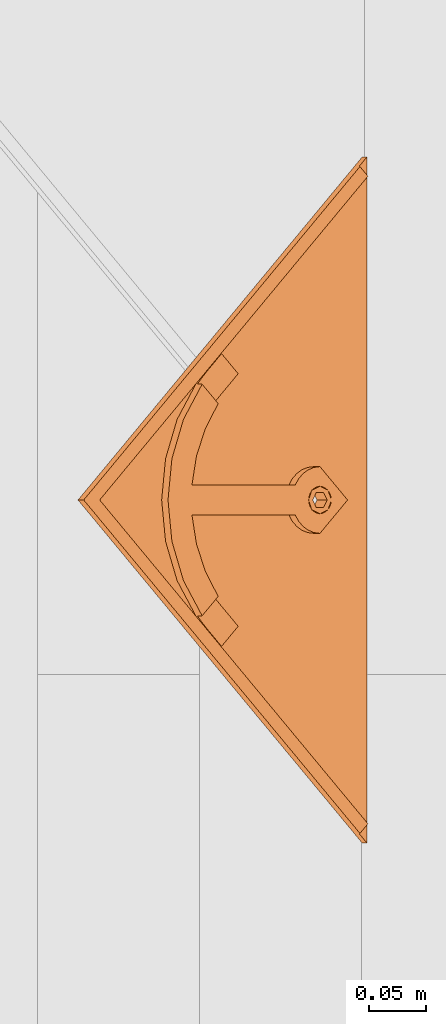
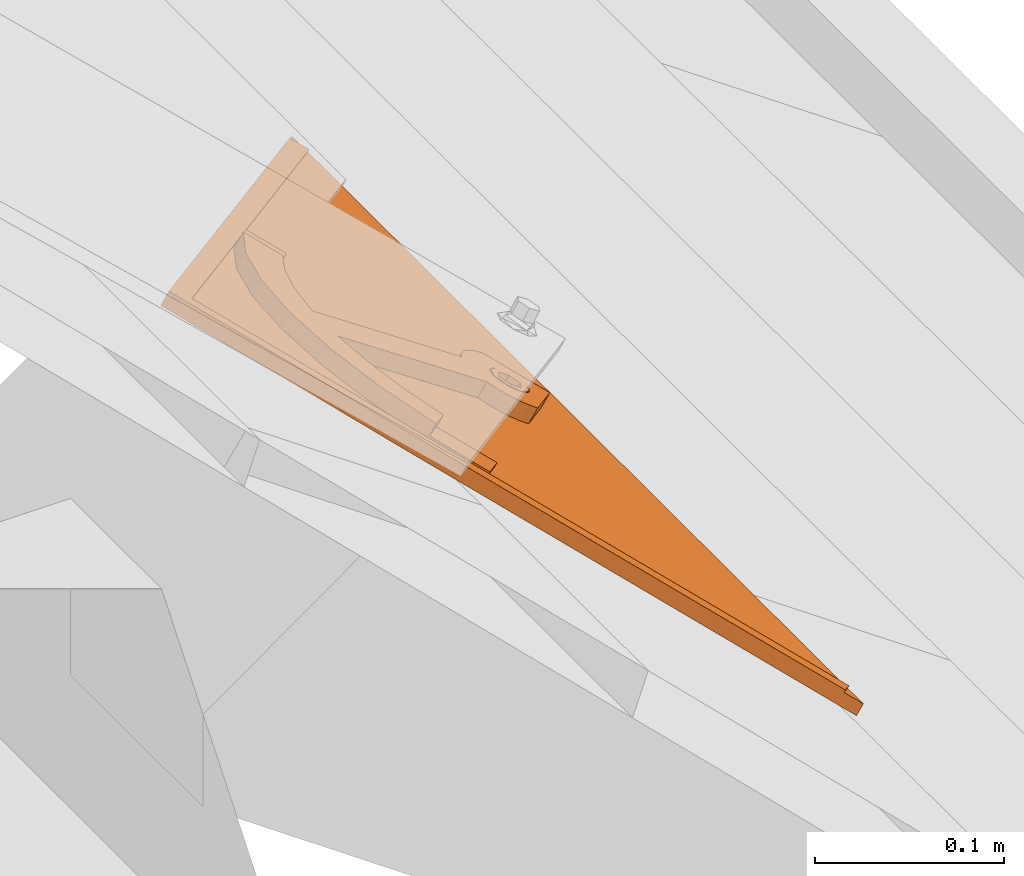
# One storey, part 136 of 151: 1 proxy.
"""IFC2X3 building model written with IfcOpenShell, lengths in millimetres."""

import ifcopenshell
import ifcopenshell.guid

model = None  # the IFC model being written
_history = None  # IfcOwnerHistory: only IFC2X3 demands one
_inside = {}  # id of a spatial element -> (the spatial element, [elements in it])
_under = {}  # id of a project, library or spatial element -> (it, [spatial elements below it])
_declared = {}  # id of a project -> (the project, [libraries it declares])
_typed = {}  # id of a type object -> (the type object, [elements of that type])
_made_of = {}  # id of a material, layer set ... -> (it, [elements and type objects made of it])


def new_model(schema):
    """Start an empty IFC model of exactly this schema.

    Asked for "IFC4X3", IfcOpenShell would pick the latest addendum, in which some entities
    have other attributes; the version numbers below select the first issue.
    IFC2X3 requires an IfcOwnerHistory on every rooted entity: one is made here for all.
    """
    global model, _history
    if schema == "IFC4X3":
        model = ifcopenshell.file(schema_version=(4, 3, 0, 0))
    else:
        model = ifcopenshell.file(schema=schema)
    _inside.clear()
    _under.clear()
    _declared.clear()
    _typed.clear()
    _made_of.clear()
    _history = None
    if model.schema == "IFC2X3":
        org = make("IfcOrganization", Name="unknown")
        user = make(
            "IfcPersonAndOrganization",
            ThePerson=make("IfcPerson", FamilyName="unknown"),
            TheOrganization=org,
        )
        app = make(
            "IfcApplication",
            ApplicationDeveloper=org,
            Version="unknown",
            ApplicationFullName="unknown",
            ApplicationIdentifier="unknown",
        )
        _history = make(
            "IfcOwnerHistory",
            OwningUser=user,
            OwningApplication=app,
            ChangeAction="ADDED",
            CreationDate=0,
        )
    return model


def make(cls, **values):
    """One entity of the class cls with the attributes given. An attribute that is None is left unset."""
    return model.create_entity(
        cls, **{name: value for name, value in values.items() if value is not None}
    )


def entity(cls, *values):
    """Any entity or typed value of the class cls, its attributes in the order of the schema. None: left unset."""
    e = model.create_entity(cls)
    for i, value in enumerate(values):
        if value is not None:
            e[i] = value
    return e


def rooted(cls, **values):
    """An entity with a GlobalId (a new one), such as an element, a storey or a relation."""
    return make(cls, GlobalId=ifcopenshell.guid.new(), OwnerHistory=_history, **values)


def si_unit(unit_type, name, prefix=None):
    """IfcSIUnit, for example si_unit("LENGTHUNIT", "METRE", prefix="MILLI")."""
    return make("IfcSIUnit", UnitType=unit_type, Prefix=prefix, Name=name)


def converted_unit(unit_type, name, factor, base, dimensions=None, offset=None):
    """IfcConversionBasedUnit, such as the inch: factor (a typed value) times the base unit."""
    return make(
        "IfcConversionBasedUnit"
        if offset is None
        else "IfcConversionBasedUnitWithOffset",
        ConversionOffset=offset,
        Dimensions=None
        if dimensions is None
        else entity("IfcDimensionalExponents", *dimensions),
        UnitType=unit_type,
        Name=name,
        ConversionFactor=make(
            "IfcMeasureWithUnit", ValueComponent=factor, UnitComponent=base
        ),
    )


def derived_unit(unit_type, elements):
    """IfcDerivedUnit: a product of units, each with its exponent."""
    return make(
        "IfcDerivedUnit",
        Elements=[
            make("IfcDerivedUnitElement", Unit=unit, Exponent=power)
            for unit, power in elements
        ],
        UnitType=unit_type,
    )


def assignment(units):
    """IfcUnitAssignment: the units of a project."""
    return None if units is None else make("IfcUnitAssignment", Units=units)


def point(xyz):
    """IfcCartesianPoint."""
    return None if xyz is None else make("IfcCartesianPoint", Coordinates=xyz)


def direction(xyz):
    """IfcDirection."""
    return None if xyz is None else make("IfcDirection", DirectionRatios=xyz)


def frame(location, z_axis=None, x_axis=None):
    """IfcAxis2Placement3D, a coordinate frame: its origin and axes. An axis left out is left unset."""
    return make(
        "IfcAxis2Placement3D",
        Location=point(location),
        Axis=direction(z_axis),
        RefDirection=direction(x_axis),
    )


def origin():
    """The frame at (0, 0, 0) with its axes left unset."""
    return frame((0.0, 0.0, 0.0))


def place(relative_to, where):
    """IfcLocalPlacement: puts the frame where relative to a parent placement (None: the world)."""
    return make(
        "IfcLocalPlacement", PlacementRelTo=relative_to, RelativePlacement=where
    )


def context(
    kind, dimensions, precision=None, world=None, true_north=None, identifier=None
):
    """IfcGeometricRepresentationContext, for example the 3D "Model" context."""
    return make(
        "IfcGeometricRepresentationContext",
        ContextIdentifier=identifier,
        ContextType=kind,
        CoordinateSpaceDimension=dimensions,
        Precision=precision,
        WorldCoordinateSystem=world,
        TrueNorth=true_north,
    )


def subcontext(parent, identifier, kind, view, scale=None):
    """IfcGeometricRepresentationSubContext, for example "Body" below "Model"."""
    return make(
        "IfcGeometricRepresentationSubContext",
        ContextIdentifier=identifier,
        ContextType=kind,
        ParentContext=parent,
        TargetScale=scale,
        TargetView=view,
    )


def project(units=None, contexts=None):
    """IfcProject with its units and contexts."""
    return rooted(
        "IfcProject",
        Name="project",
        RepresentationContexts=contexts,
        UnitsInContext=assignment(units),
    )


def spatial(cls, under=None, at=None, **own):
    """A site, building, storey or space (cls), placed at a placement, below another one or the project."""
    s = rooted(cls, ObjectPlacement=at, **own)
    if under is not None:
        _under.setdefault(under.id(), (under, []))[1].append(s)
    return s


def faces_of(points, faces, orient=None, outer=None):
    """IfcFace entities. A face is a list of loops; a loop is a list of indices into points, from 0.

    orient and outer hold one flag for each loop. By default every Orientation is true, the
    first loop of a face is its IfcFaceOuterBound and the others are IfcFaceBound.
    """
    made = []
    for i, loops in enumerate(faces):
        bounds = []
        for j, loop in enumerate(loops):
            is_outer = j == 0 if outer is None else outer[i][j]
            bounds.append(
                make(
                    "IfcFaceOuterBound" if is_outer else "IfcFaceBound",
                    Bound=make("IfcPolyLoop", Polygon=[points[k] for k in loop]),
                    Orientation=True if orient is None else orient[i][j],
                )
            )
        made.append(make("IfcFace", Bounds=bounds))
    return made


def faceted_brep(points, faces, orient=None, outer=None, voids=None):
    """IfcFacetedBrep: a solid bounded by flat faces; with voids (closed shells), ...WithVoids."""
    shared = [point(p) for p in points]
    hull = make("IfcClosedShell", CfsFaces=faces_of(shared, faces, orient, outer))
    if voids is None:
        return make("IfcFacetedBrep", Outer=hull)
    return make(
        "IfcFacetedBrepWithVoids",
        Outer=hull,
        Voids=[
            make(cls, CfsFaces=faces_of(shared, fs, o, b)) for cls, fs, o, b in voids
        ],
    )


def shape(context_of_items, identifier, shape_type, items):
    """IfcShapeRepresentation: the items that make up one representation, for example the "Body"."""
    return make(
        "IfcShapeRepresentation",
        ContextOfItems=context_of_items,
        RepresentationIdentifier=identifier,
        RepresentationType=shape_type,
        Items=items,
    )


def source(mapping_origin, context_of_items, identifier, shape_type, items):
    """IfcRepresentationMap: a shape defined once, which mapped items show again and again."""
    return make(
        "IfcRepresentationMap",
        MappingOrigin=mapping_origin,
        MappedRepresentation=shape(context_of_items, identifier, shape_type, items),
    )


def transform(
    local_origin,
    x_axis=None,
    y_axis=None,
    z_axis=None,
    scale=None,
    scale2=None,
    scale3=None,
    uniform=True,
):
    """IfcCartesianTransformationOperator3D, or its non-uniform kind. x_axis, y_axis, z_axis: its Axis1, 2, 3."""
    if uniform:
        return make(
            "IfcCartesianTransformationOperator3D",
            Axis1=direction(x_axis),
            Axis2=direction(y_axis),
            LocalOrigin=point(local_origin),
            Scale=scale,
            Axis3=direction(z_axis),
        )
    return make(
        "IfcCartesianTransformationOperator3DnonUniform",
        Axis1=direction(x_axis),
        Axis2=direction(y_axis),
        LocalOrigin=point(local_origin),
        Scale=scale,
        Axis3=direction(z_axis),
        Scale2=scale2,
        Scale3=scale3,
    )


def mapped(mapping_source, mapping_target):
    """IfcMappedItem: shows the shape of a source again, moved by a transform."""
    return make(
        "IfcMappedItem", MappingSource=mapping_source, MappingTarget=mapping_target
    )


def material(Name=None, Category=None):
    """IfcMaterial."""
    return make("IfcMaterial", Name=Name, Category=Category)


def material_list(materials):
    """IfcMaterialList."""
    return make("IfcMaterialList", Materials=materials)


def made_of(thing, what):
    """Note that an element or type object is made of a material, layer set ...; save() writes the relation."""
    if what is not None:
        _made_of.setdefault(what.id(), (what, []))[1].append(thing)
    return thing


def type_object(cls, material=None, **own):
    """A type object (cls), such as IfcWallType, which elements share."""
    return made_of(rooted(cls, **own), material)


def type_shapes(of_type, sources):
    """Give a type object the sources (RepresentationMaps) that its elements show as mapped items."""
    of_type.RepresentationMaps = sources


def element(
    cls,
    number,
    at=None,
    inside=None,
    cuts=None,
    type_object=None,
    material=None,
    context=None,
    identifier="Body",
    shape_type=None,
    held_by="IfcProductDefinitionShape",
    body=None,
    shapes=None,
    **own,
):
    """One element of the class cls, such as IfcWall. Its Tag is "e" and its number.

    at: its placement. inside: the storey or other place that contains it. cuts: it is an
    opening in that element (IfcRelVoidsElement). A single representation is given by context,
    identifier, shape_type and body (its items); several are given by shapes. held_by: the class
    of the entity that holds the representations. save() writes the other relations.
    """
    e = rooted(cls, Tag="e%d" % number, ObjectPlacement=at, **own)
    if body is not None:
        shapes = [shape(context, identifier, shape_type, body)]
    if shapes is not None:
        e.Representation = make(held_by, Representations=shapes)
    if inside is not None:
        _inside.setdefault(inside.id(), (inside, []))[1].append(e)
    if cuts is not None:
        rooted(
            "IfcRelVoidsElement", RelatingBuildingElement=cuts, RelatedOpeningElement=e
        )
    if type_object is not None:
        _typed.setdefault(type_object.id(), (type_object, []))[1].append(e)
    return made_of(e, material)


def aggregate(whole, parts):
    """IfcRelAggregates: a whole, such as a stair, and the parts it consists of."""
    return rooted("IfcRelAggregates", RelatingObject=whole, RelatedObjects=parts)


def save(model, path):
    """Write the relations noted so far, then the file.

    IfcRelAggregates (storeys below a building ...), IfcRelContainedInSpatialStructure (elements
    in a storey), IfcRelDefinesByType, IfcRelAssociatesMaterial and IfcRelDeclares: one each for
    every whole, place, type object, material and project.
    """
    for whole, parts in _under.values():
        aggregate(whole, parts)
    for where, things in _inside.values():
        rooted(
            "IfcRelContainedInSpatialStructure",
            RelatedElements=things,
            RelatingStructure=where,
        )
    for kind, things in _typed.values():
        rooted("IfcRelDefinesByType", RelatedObjects=things, RelatingType=kind)
    for what, things in _made_of.values():
        rooted("IfcRelAssociatesMaterial", RelatedObjects=things, RelatingMaterial=what)
    for by, libraries in _declared.values():
        rooted("IfcRelDeclares", RelatingContext=by, RelatedDefinitions=libraries)
    model.write(path)


model = new_model("IFC2X3")

# Units and contexts
model_context = context("Model", 3, precision=0.01, world=origin(), true_north=direction((6.12303176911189e-17, 1.0)))
body_context = subcontext(model_context, "Body", "Model", "MODEL_VIEW")
ifc_project = project(units=[si_unit("LENGTHUNIT", "METRE", prefix="MILLI"), si_unit("AREAUNIT", "SQUARE_METRE"), si_unit("VOLUMEUNIT", "CUBIC_METRE"), converted_unit("PLANEANGLEUNIT", "DEGREE", entity("IfcRatioMeasure", 0.0174532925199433), si_unit("PLANEANGLEUNIT", "RADIAN"), dimensions=[0, 0, 0, 0, 0, 0, 0]), si_unit("MASSUNIT", "GRAM", prefix="KILO"), derived_unit("MASSDENSITYUNIT", [(si_unit("MASSUNIT", "GRAM", prefix="KILO"), 1), (si_unit("LENGTHUNIT", "METRE"), -3)]), si_unit("TIMEUNIT", "SECOND"), si_unit("FREQUENCYUNIT", "HERTZ"), si_unit("THERMODYNAMICTEMPERATUREUNIT", "DEGREE_CELSIUS"), derived_unit("THERMALTRANSMITTANCEUNIT", [(si_unit("MASSUNIT", "GRAM", prefix="KILO"), 1), (si_unit("THERMODYNAMICTEMPERATUREUNIT", "KELVIN"), -1), (si_unit("TIMEUNIT", "SECOND"), -3)]), derived_unit("VOLUMETRICFLOWRATEUNIT", [(si_unit("LENGTHUNIT", "METRE"), 3), (si_unit("TIMEUNIT", "SECOND"), -1)]), si_unit("ELECTRICCURRENTUNIT", "AMPERE"), si_unit("ELECTRICVOLTAGEUNIT", "VOLT"), si_unit("POWERUNIT", "WATT"), si_unit("FORCEUNIT", "NEWTON", prefix="KILO"), si_unit("ILLUMINANCEUNIT", "LUX"), si_unit("LUMINOUSFLUXUNIT", "LUMEN"), si_unit("LUMINOUSINTENSITYUNIT", "CANDELA"), derived_unit("USERDEFINED", [(si_unit("MASSUNIT", "GRAM", prefix="KILO"), -1), (si_unit("LENGTHUNIT", "METRE"), -2), (si_unit("TIMEUNIT", "SECOND"), 3), (si_unit("LUMINOUSFLUXUNIT", "LUMEN"), 1)]), derived_unit("LINEARVELOCITYUNIT", [(si_unit("LENGTHUNIT", "METRE"), 1), (si_unit("TIMEUNIT", "SECOND"), -1)]), si_unit("PRESSUREUNIT", "PASCAL"), derived_unit("USERDEFINED", [(si_unit("LENGTHUNIT", "METRE"), -2), (si_unit("MASSUNIT", "GRAM", prefix="KILO"), 1), (si_unit("TIMEUNIT", "SECOND"), -2)])], contexts=[model_context])

# Site, building, storey
site_placement = place(None, origin())
site = spatial("IfcSite", under=ifc_project, at=site_placement, Name="Default", CompositionType="ELEMENT")
building_placement = place(site_placement, origin())
building = spatial("IfcBuilding", under=site, at=building_placement, CompositionType="ELEMENT")
storey_placement = place(building_placement, origin())
storey = spatial("IfcBuildingStorey", under=building, at=storey_placement, Name="Level 1", CompositionType="ELEMENT", Elevation=0.0)

# Proxy
ifc_material_1 = material(Name="Rubber - Sunstyle - Black")
ifc_material_2 = material(Name="Glass - Sunstyle - Tainted Black")
ifc_material_list_1 = material_list([ifc_material_1, ifc_material_2])
ifc_material_list_2 = material_list([ifc_material_1, ifc_material_2])
building_element_proxy_type = type_object("IfcBuildingElementProxyType", Name="Shingle Bottom Small - Black", PredefinedType="NOTDEFINED", material=ifc_material_list_2)
shared_shape = source(origin(), body_context, "Body", "Brep", [
    faceted_brep([(302.08842791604, 44.9093317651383, 22.0558382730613), (302.08842791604, 49.408700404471, 21.980485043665), (293.484723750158, 48.4726030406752, 21.9961623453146), (310.692132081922, 48.4726030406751, 21.9961623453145), (308.728656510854, 53.2419006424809, 21.9162884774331), (314.255903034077, 57.0751008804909, 21.8520919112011), (308.728656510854, 60.9083011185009, 21.7878953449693), (310.692132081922, 65.6775987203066, 21.7080214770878), (302.08842791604, 64.7415013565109, 21.7236987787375), (302.08842791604, 69.2408699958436, 21.6483455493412), (293.484723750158, 65.6775987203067, 21.708021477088), (295.448199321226, 60.908301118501, 21.7878953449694), (289.920952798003, 57.0751008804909, 21.8520919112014), (295.448199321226, 53.2419006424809, 21.9162884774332), (295.448199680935, 60.6403782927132, 5.79013870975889), (302.08842791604, 64.473578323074, 5.72594214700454), (295.448199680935, 52.9739782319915, 5.91853183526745), (302.08842791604, 49.1407782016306, 5.98272839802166), (308.728656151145, 52.9739782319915, 5.91853183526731), (308.728656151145, 60.6403782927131, 5.79013870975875), (293.484723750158, 48.2046804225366, 5.99840570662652), (302.08842791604, 44.6414091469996, 6.05808163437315), (289.920952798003, 56.8071782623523, 5.85433527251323), (293.484723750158, 65.4096761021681, 5.71026483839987), (302.08842791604, 68.972947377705, 5.65058891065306), (310.692132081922, 65.409676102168, 5.71026483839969), (314.255903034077, 56.8071782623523, 5.85433527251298), (310.692132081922, 48.2046804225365, 5.99840570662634)], [[[0, 1, 2]], [[1, 0, 3]], [[3, 4, 1]], [[4, 3, 5]], [[6, 4, 5]], [[5, 7, 6]], [[7, 8, 6]], [[8, 7, 9]], [[8, 9, 10]], [[10, 11, 8]], [[12, 11, 10]], [[2, 13, 12]], [[12, 13, 11]], [[13, 2, 1]], [[8, 11, 14, 15]], [[11, 13, 16, 14]], [[13, 1, 17, 16]], [[1, 4, 18, 17]], [[4, 6, 19, 18]], [[6, 8, 15, 19]], [[20, 17, 21]], [[17, 20, 16]], [[22, 16, 20]], [[14, 16, 22]], [[23, 14, 22]], [[15, 14, 23]], [[23, 24, 15]], [[24, 25, 15]], [[19, 15, 25]], [[19, 25, 26]], [[26, 18, 19]], [[26, 27, 18]], [[17, 18, 27]], [[27, 21, 17]], [[24, 23, 10, 9]], [[10, 23, 22, 12]], [[20, 21, 0, 2]], [[20, 2, 12, 22]], [[21, 27, 3, 0]], [[3, 27, 26, 5]], [[25, 24, 9, 7]], [[25, 7, 5, 26]]]),
    faceted_brep([(587.35835892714, 0.0, 12.5593198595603), (595.843045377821, 8.4846864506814, 12.4172224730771), (595.843045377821, 8.50980419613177, 13.9170121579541), (587.35835892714, 0.0251177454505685, 14.0591095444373), (302.088750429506, 285.189618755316, 7.7831033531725), (16.8191419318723, 0.0, 12.5593198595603), (8.33445548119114, 8.48468645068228, 12.4172224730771), (302.088750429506, 302.156612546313, 7.49894842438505), (302.088750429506, 302.181730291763, 8.9987381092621), (8.33445548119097, 8.50980419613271, 13.9170121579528), (16.8191419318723, 0.0251177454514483, 14.0591095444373), (302.088750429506, 285.214736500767, 9.28289303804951)], [[[0, 1, 2, 3]], [[1, 0, 4, 5, 6, 7]], [[2, 1, 7, 8]], [[3, 2, 8, 9, 10, 11]], [[0, 3, 11, 4]], [[5, 10, 9, 6]], [[8, 7, 6, 9]], [[4, 11, 10, 5]]]),
    faceted_brep([(302.088750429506, 302.156612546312, 7.49894842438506), (305.194256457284, 68.3255429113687, 11.4150370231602), (308.088427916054, 67.1269059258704, 11.4351112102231), (302.088427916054, 68.7343756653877, 11.4081900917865), (310.573709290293, 65.2201498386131, 11.4670446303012), (298.982599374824, 68.3255429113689, 11.4150370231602), (296.088427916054, 67.1269059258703, 11.4351112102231), (293.603146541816, 65.2201498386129, 11.4670446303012), (312.480732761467, 62.7352169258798, 11.5086610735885), (604.177500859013, 0.152567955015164, 12.5567647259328), (291.696123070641, 62.7352169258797, 11.5086610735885), (0.0, 0.152567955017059, 12.5567647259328), (290.497318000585, 59.8414512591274, 11.5571244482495), (290.088427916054, 56.7360581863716, 11.6091320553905), (290.497318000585, 53.6306651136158, 11.6611396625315), (291.696123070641, 50.7368994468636, 11.7096030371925), (293.603146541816, 48.2519665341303, 11.7512194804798), (296.088427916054, 46.3452104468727, 11.7831529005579), (298.982599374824, 45.1465734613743, 11.8032270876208), (302.088427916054, 44.7377407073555, 11.8100740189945), (313.679537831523, 59.8414512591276, 11.5571244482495), (314.088427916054, 56.7360581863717, 11.6091320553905), (313.679537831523, 53.6306651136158, 11.6611396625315), (312.480732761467, 50.7368994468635, 11.7096030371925), (310.573709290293, 48.2519665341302, 11.7512194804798), (308.088427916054, 46.3452104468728, 11.7831529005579), (305.194256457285, 45.1465734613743, 11.8032270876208), (0.0, 0.0269792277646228, 5.0578163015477), (290.088427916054, 56.6104694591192, 4.11018363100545), (290.497318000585, 53.5050763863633, 4.16219123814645), (290.497318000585, 59.7158625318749, 4.05817602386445), (291.696123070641, 50.6113107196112, 4.21065461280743), (291.696123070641, 62.6096281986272, 4.00971264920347), (302.088750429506, 302.031023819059, 0.0), (293.603146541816, 48.1263778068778, 4.25227105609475), (296.088427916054, 46.2196217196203, 4.28420447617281), (298.982599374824, 45.0209847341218, 4.30427866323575), (302.088427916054, 44.612151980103, 4.31112559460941), (604.177500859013, 0.0269792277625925, 5.05781630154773), (293.603146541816, 65.0945611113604, 3.96809620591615), (296.088427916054, 67.0013171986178, 3.93616278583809), (298.982599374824, 68.1999541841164, 3.91608859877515), (302.088427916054, 68.6087869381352, 3.90924166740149), (305.194256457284, 68.1999541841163, 3.91608859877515), (308.088427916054, 67.0013171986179, 3.93616278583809), (310.573709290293, 65.0945611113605, 3.96809620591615), (312.480732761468, 62.6096281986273, 4.00971264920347), (305.194256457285, 45.0209847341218, 4.30427866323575), (308.088427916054, 46.2196217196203, 4.28420447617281), (313.679537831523, 59.7158625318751, 4.05817602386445), (314.088427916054, 56.6104694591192, 4.11018363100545), (313.679537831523, 53.5050763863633, 4.16219123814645), (312.480732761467, 50.611310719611, 4.21065461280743), (310.573709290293, 48.1263778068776, 4.25227105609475)], [[[0, 1, 2]], [[1, 0, 3]], [[0, 2, 4]], [[5, 3, 0]], [[6, 5, 0]], [[0, 7, 6]], [[8, 0, 4]], [[0, 8, 9]], [[7, 0, 10]], [[0, 11, 10]], [[12, 10, 11]], [[11, 13, 12]], [[13, 11, 14]], [[15, 14, 11]], [[11, 16, 15]], [[17, 16, 11]], [[17, 11, 18]], [[19, 18, 11]], [[19, 11, 9]], [[9, 8, 20]], [[20, 21, 9]], [[21, 22, 9]], [[22, 23, 9]], [[9, 23, 24]], [[24, 25, 9]], [[25, 26, 9]], [[9, 26, 19]], [[27, 28, 29]], [[28, 27, 30]], [[27, 29, 31]], [[32, 30, 27]], [[32, 27, 33]], [[31, 34, 27]], [[34, 35, 27]], [[35, 36, 27]], [[36, 37, 27]], [[27, 37, 38]], [[33, 39, 32]], [[40, 39, 33]], [[41, 40, 33]], [[42, 41, 33]], [[33, 43, 42]], [[43, 33, 44]], [[45, 44, 33]], [[33, 46, 45]], [[46, 33, 38]], [[38, 37, 47]], [[47, 48, 38]], [[49, 46, 38]], [[38, 50, 49]], [[50, 38, 51]], [[52, 51, 38]], [[53, 52, 38]], [[53, 38, 48]], [[11, 0, 33, 27]], [[0, 9, 38, 33]], [[13, 28, 30, 12]], [[12, 30, 32, 10]], [[6, 7, 39, 40]], [[39, 7, 10, 32]], [[5, 6, 40, 41]], [[5, 41, 42, 3]], [[3, 42, 43, 1]], [[1, 43, 44, 2]], [[8, 4, 45, 46]], [[45, 4, 2, 44]], [[20, 8, 46, 49]], [[20, 49, 50, 21]], [[21, 50, 51, 22]], [[22, 51, 52, 23]], [[25, 24, 53, 48]], [[53, 24, 23, 52]], [[26, 25, 48, 47]], [[26, 47, 37, 19]], [[19, 37, 36, 18]], [[18, 36, 35, 17]], [[15, 16, 34, 31]], [[34, 16, 17, 35]], [[14, 15, 31, 29]], [[14, 29, 28, 13]], [[9, 11, 27, 38]]]),
    faceted_brep([(190.819384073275, 138.646056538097, 12.7376939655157), (217.144031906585, 164.967013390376, 12.2968834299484), (200.060856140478, 182.04779392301, 12.0108228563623), (193.80845410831, 176.686146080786, 12.100617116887), (187.837458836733, 171.012871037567, 12.1956303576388), (173.141714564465, 156.321247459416, 12.4416784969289), (431.035141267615, 156.321247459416, 12.4416784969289), (416.339396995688, 171.012871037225, 12.1956303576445), (410.36840172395, 176.686146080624, 12.1006171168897), (404.115999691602, 182.047793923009, 12.0108228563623), (387.031626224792, 164.968210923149, 12.2968633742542), (413.357471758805, 138.646056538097, 12.7376939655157), (296.088427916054, 67.294357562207, 21.4337091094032), (288.788427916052, 83.1076295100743, 21.1688761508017), (283.384321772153, 79.569581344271, 21.2281296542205), (293.603146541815, 65.3876014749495, 21.4656425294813), (298.982599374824, 68.4929945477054, 21.4136349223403), (302.088427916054, 68.9018273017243, 21.4067879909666), (315.388427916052, 83.107629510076, 21.1688761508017), (305.194256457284, 68.4929945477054, 21.4136349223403), (308.088427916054, 67.2943575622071, 21.4337091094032), (320.792534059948, 79.5695813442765, 21.2281296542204), (310.573709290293, 65.3876014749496, 21.4656425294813), (325.293078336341, 74.9365758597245, 21.3057209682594), (312.480732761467, 62.9026685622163, 21.5072589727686), (328.672647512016, 69.4324252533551, 21.3979017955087), (313.679537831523, 60.0089028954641, 21.5557223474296), (330.767980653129, 63.323025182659, 21.500219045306), (314.088427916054, 56.9035098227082, 21.6077299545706), (331.477855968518, 56.9035098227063, 21.6077299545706), (313.679537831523, 53.7981167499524, 21.6597375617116), (312.480732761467, 50.9043510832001, 21.7082009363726), (310.573709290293, 48.4194181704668, 21.7498173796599), (302.08842791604, 27.5182024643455, 22.0998607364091), (308.088427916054, 46.5126620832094, 21.7817507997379), (305.194256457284, 45.314025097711, 21.8018249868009), (302.088427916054, 44.9051923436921, 21.8086719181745), (298.982599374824, 45.314025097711, 21.8018249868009), (296.088427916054, 46.5126620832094, 21.7817507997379), (293.603146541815, 48.4194181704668, 21.7498173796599), (272.69899986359, 56.903509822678, 21.6077299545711), (291.696123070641, 50.9043510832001, 21.7082009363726), (290.497318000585, 53.7981167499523, 21.6597375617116), (290.088427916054, 56.9035098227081, 21.6077299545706), (273.408875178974, 63.3230251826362, 21.5002190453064), (290.497318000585, 60.008902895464, 21.5557223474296), (275.504208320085, 69.4324252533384, 21.397901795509), (291.696123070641, 62.9026685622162, 21.5072589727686), (278.883777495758, 74.9365758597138, 21.3057209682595), (288.788427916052, 192.984512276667, 19.3287117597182), (315.388427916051, 192.984512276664, 19.3287117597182), (302.088427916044, 218.456125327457, 18.9021256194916), (338.579268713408, 214.282159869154, 18.9720291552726), (340.858170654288, 188.169632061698, 19.4093490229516), (373.184513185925, 201.975945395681, 19.1781276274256), (365.012761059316, 178.765998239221, 19.5668364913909), (404.115999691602, 182.173382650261, 19.5097712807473), (387.032823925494, 165.092602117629, 19.7958318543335), (265.59758711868, 214.28215986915, 18.9720291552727), (263.318685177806, 188.169632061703, 19.4093490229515), (230.992342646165, 201.975945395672, 19.1781276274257), (239.164094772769, 178.765998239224, 19.5668364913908), (200.06085614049, 182.173382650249, 19.5097712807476), (217.144031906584, 165.092602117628, 19.7958318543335), (302.08842791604, 27.3507508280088, 12.1012628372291), (302.088427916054, 44.7377407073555, 11.8100740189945), (305.194256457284, 45.1465734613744, 11.8032270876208), (298.982599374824, 45.1465734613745, 11.8032270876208), (308.088427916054, 46.3452104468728, 11.7831529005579), (310.573709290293, 48.2519665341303, 11.7512194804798), (331.477855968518, 56.7360581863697, 11.6091320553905), (296.088427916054, 46.3452104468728, 11.7831529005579), (293.603146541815, 48.2519665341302, 11.7512194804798), (272.69899986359, 56.7360581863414, 11.609132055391), (291.696123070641, 50.7368994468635, 11.7096030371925), (290.497318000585, 53.6306651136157, 11.6611396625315), (290.088427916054, 56.7360581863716, 11.6091320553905), (273.408875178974, 63.1555735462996, 11.5016211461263), (290.497318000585, 59.8414512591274, 11.5571244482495), (275.504208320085, 69.2649736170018, 11.3993038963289), (291.696123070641, 62.7352169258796, 11.5086610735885), (278.883777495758, 74.7691242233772, 11.3071230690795), (293.603146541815, 65.2201498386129, 11.4670446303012), (283.384321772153, 79.4021297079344, 11.2295317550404), (296.088427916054, 67.1269059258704, 11.4351112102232), (288.788427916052, 82.9401778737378, 11.1702782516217), (298.982599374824, 68.3255429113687, 11.4150370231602), (302.088427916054, 68.7343756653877, 11.4081900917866), (315.388427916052, 82.9401778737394, 11.1702782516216), (288.788427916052, 192.81706064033, 9.33011386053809), (315.388427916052, 192.817060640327, 9.33011386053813), (302.088427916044, 218.28867369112, 8.90352772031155), (265.59758711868, 214.114708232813, 8.97343125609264), (263.318685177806, 188.002180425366, 9.41075112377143), (230.992342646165, 201.808493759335, 9.17952972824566), (239.164094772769, 178.598546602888, 9.56823859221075), (200.06085614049, 182.005931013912, 9.51117338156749), (217.145229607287, 164.926348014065, 9.79721389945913), (193.80845410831, 176.644283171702, 9.60096764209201), (187.837458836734, 170.971008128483, 9.69598088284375), (190.819384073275, 138.604193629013, 10.2380444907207), (173.141714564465, 156.279384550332, 9.94202902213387), (338.579268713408, 214.114708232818, 8.97343125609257), (340.858170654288, 188.002180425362, 9.41075112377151), (373.184513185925, 201.808493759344, 9.17952972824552), (365.012761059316, 178.598546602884, 9.5682385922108), (404.115999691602, 182.005931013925, 9.51117338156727), (387.032823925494, 164.925150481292, 9.79723395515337), (410.36840172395, 176.64428317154, 9.60096764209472), (416.339396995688, 170.971008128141, 9.69598088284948), (413.357471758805, 138.604193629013, 10.2380444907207), (431.035141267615, 156.279384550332, 9.94202902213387), (305.194256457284, 68.3255429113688, 11.4150370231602), (308.088427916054, 67.1269059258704, 11.4351112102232), (320.792534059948, 79.4021297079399, 11.2295317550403), (310.573709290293, 65.220149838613, 11.4670446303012), (325.293078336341, 74.7691242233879, 11.3071230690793), (312.480732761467, 62.7352169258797, 11.5086610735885), (328.672647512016, 69.2649736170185, 11.3993038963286), (313.679537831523, 59.8414512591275, 11.5571244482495), (330.767980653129, 63.1555735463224, 11.5016211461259), (314.088427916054, 56.7360581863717, 11.6091320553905), (312.480732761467, 50.7368994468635, 11.7096030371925), (313.679537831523, 53.6306651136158, 11.6611396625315)], [[[0, 1, 2, 3, 4, 5]], [[6, 7, 8, 9, 10, 11]], [[12, 13, 14]], [[12, 14, 15]], [[16, 13, 12]], [[17, 13, 16]], [[18, 13, 17]], [[17, 19, 18]], [[19, 20, 18]], [[20, 21, 18]], [[21, 20, 22]], [[21, 22, 23]], [[24, 23, 22]], [[23, 24, 25]], [[24, 26, 25]], [[27, 25, 26]], [[26, 28, 27]], [[29, 27, 28]], [[28, 30, 29]], [[30, 31, 29]], [[29, 31, 32]], [[32, 33, 29]], [[32, 34, 33]], [[35, 33, 34]], [[36, 33, 35]], [[33, 36, 37]], [[38, 33, 37]], [[38, 39, 33]], [[40, 33, 39]], [[41, 40, 39]], [[41, 42, 40]], [[42, 43, 40]], [[43, 44, 40]], [[45, 44, 43]], [[45, 46, 44]], [[45, 47, 46]], [[48, 46, 47]], [[48, 47, 15]], [[48, 15, 14]], [[18, 49, 13]], [[50, 49, 18]], [[51, 49, 50]], [[50, 52, 51]], [[50, 53, 52]], [[52, 53, 54]], [[53, 55, 54]], [[56, 54, 55]], [[57, 56, 55]], [[58, 49, 51]], [[49, 58, 59]], [[60, 59, 58]], [[60, 61, 59]], [[61, 60, 62]], [[62, 63, 61]], [[64, 65, 66]], [[65, 64, 67]], [[64, 66, 68]], [[68, 69, 64]], [[64, 69, 70]], [[71, 67, 64]], [[71, 64, 72]], [[72, 64, 73]], [[73, 74, 72]], [[74, 73, 75]], [[75, 73, 76]], [[77, 76, 73]], [[76, 77, 78]], [[78, 77, 79]], [[80, 78, 79]], [[81, 80, 79]], [[82, 80, 81]], [[83, 82, 81]], [[83, 84, 82]], [[85, 84, 83]], [[85, 86, 84]], [[87, 86, 85]], [[88, 87, 85]], [[89, 88, 85]], [[88, 89, 90]], [[89, 91, 90]], [[91, 89, 92]], [[93, 92, 89]], [[92, 93, 94]], [[95, 94, 93]], [[96, 94, 95]], [[95, 97, 96]], [[97, 98, 96]], [[98, 97, 99]], [[97, 100, 99]], [[99, 100, 101]], [[90, 91, 102]], [[103, 90, 102]], [[103, 102, 104]], [[105, 103, 104]], [[106, 105, 104]], [[107, 105, 106]], [[106, 108, 107]], [[109, 107, 108]], [[110, 107, 109]], [[109, 111, 110]], [[112, 87, 88]], [[113, 112, 88]], [[114, 113, 88]], [[115, 113, 114]], [[115, 114, 116]], [[116, 117, 115]], [[117, 116, 118]], [[118, 119, 117]], [[120, 119, 118]], [[121, 120, 70]], [[120, 121, 119]], [[70, 69, 122]], [[122, 123, 70]], [[123, 121, 70]], [[13, 49, 89, 85]], [[14, 13, 85, 83]], [[48, 14, 83, 81]], [[81, 79, 46, 48]], [[44, 46, 79, 77]], [[40, 44, 77, 73]], [[33, 40, 73, 64]], [[0, 5, 101, 100]], [[29, 33, 64, 70]], [[6, 11, 110, 111]], [[27, 29, 70, 120]], [[25, 27, 120, 118]], [[118, 116, 23, 25]], [[21, 23, 116, 114]], [[18, 21, 114, 88]], [[50, 18, 88, 90]], [[9, 106, 104, 54, 56]], [[52, 54, 104, 102]], [[51, 52, 102, 91]], [[58, 51, 91, 92]], [[94, 96, 2, 62, 60]], [[60, 58, 92, 94]], [[43, 76, 78, 45]], [[45, 78, 80, 47]], [[12, 15, 82, 84]], [[80, 82, 15, 47]], [[16, 12, 84, 86]], [[87, 17, 16, 86]], [[19, 112, 113, 20]], [[20, 113, 115, 22]], [[26, 24, 117, 119]], [[115, 117, 24, 22]], [[28, 26, 119, 121]], [[19, 17, 87, 112]], [[28, 121, 123, 30]], [[30, 123, 122, 31]], [[34, 32, 69, 68]], [[122, 69, 32, 31]], [[35, 34, 68, 66]], [[65, 36, 35, 66]], [[37, 67, 71, 38]], [[38, 71, 72, 39]], [[42, 41, 74, 75]], [[72, 74, 41, 39]], [[43, 42, 75, 76]], [[37, 36, 65, 67]], [[7, 6, 111, 109]], [[7, 109, 108, 8]], [[108, 106, 9, 8]], [[11, 10, 107, 110]], [[1, 0, 100, 97]], [[2, 96, 98, 3]], [[98, 99, 4, 3]], [[5, 4, 99, 101]], [[63, 62, 2, 1]], [[56, 57, 10]], [[10, 9, 56]], [[1, 95, 61, 63]], [[1, 97, 95]], [[93, 89, 49, 59]], [[95, 93, 59, 61]], [[90, 103, 53, 50]], [[103, 105, 55, 53]], [[10, 57, 55]], [[107, 10, 105]], [[55, 105, 10]]]),
])
type_shapes(building_element_proxy_type, [shared_shape])
proxy_placement = place(storey_placement, frame((4560.90421878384, 507.41497812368, 520.069325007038), z_axis=(0.573576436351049, 0.0, 0.81915204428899), x_axis=(0.0, 1.0, 0.0)))
element("IfcBuildingElementProxy", 1, at=proxy_placement, inside=storey, type_object=building_element_proxy_type, material=ifc_material_list_1, Name="Roofing_Panels_SunStyle_Tile_Shingle-Bottom-Small:Shingle Bottom Small - Black", ObjectType="Roofing_Panels_SunStyle_Tile_Shingle-Bottom-Small:Shingle Bottom Small - Black", context=body_context, shape_type="MappedRepresentation", body=[
    mapped(shared_shape, transform((0.0, 0.0, 0.0), scale=1.0)),
])

save(model, "model.ifc")
